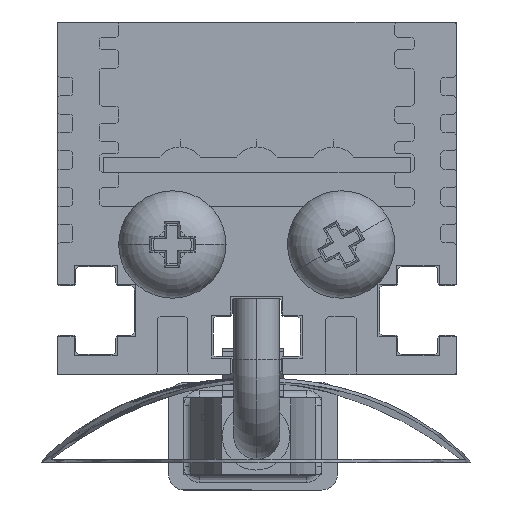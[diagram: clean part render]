
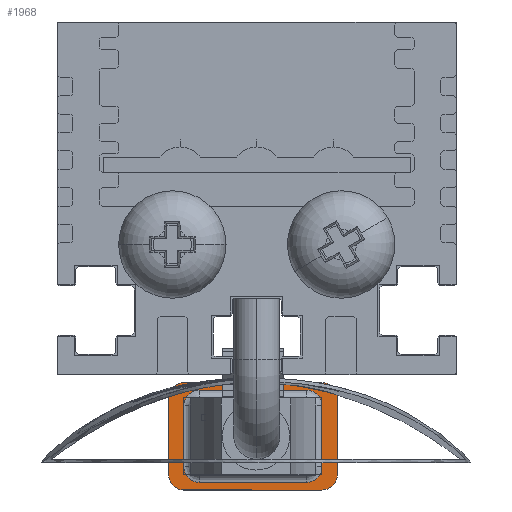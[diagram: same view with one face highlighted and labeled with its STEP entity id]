
A CAD part, left-side view. The second image highlights one B-rep face of the part: STEP entity #1968.
In plain terms, the highlighted planar face has unit normal (-1, 0, 0).
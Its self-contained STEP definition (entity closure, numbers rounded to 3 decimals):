
#1968=ADVANCED_FACE('NONE',(#4087,#4088),#4089,.F.);
#4087=FACE_OUTER_BOUND('',#6672,.T.);
#4088=FACE_BOUND('',#6673,.T.);
#4089=PLANE('',#6674);
#6672=EDGE_LOOP('',(#12297,#12298,#12299,#12300,#12301,#12302,#12303,#12304,#12305,#12306,#12307,#12308));
#6673=EDGE_LOOP('',(#12309,#12310,#12311,#12312,#12313,#12314,#12315,#12316));
#6674=AXIS2_PLACEMENT_3D('',#12317,#12318,#12319);
#12297=ORIENTED_EDGE('',*,*,#17567,.T.);
#12298=ORIENTED_EDGE('',*,*,#17369,.T.);
#12299=ORIENTED_EDGE('',*,*,#17575,.F.);
#12300=ORIENTED_EDGE('',*,*,#17364,.T.);
#12301=ORIENTED_EDGE('',*,*,#17588,.F.);
#12302=ORIENTED_EDGE('',*,*,#17411,.T.);
#12303=ORIENTED_EDGE('',*,*,#17586,.F.);
#12304=ORIENTED_EDGE('',*,*,#17420,.F.);
#12305=ORIENTED_EDGE('',*,*,#17570,.F.);
#12306=ORIENTED_EDGE('',*,*,#17361,.T.);
#12307=ORIENTED_EDGE('',*,*,#17578,.T.);
#12308=ORIENTED_EDGE('',*,*,#17356,.T.);
#12309=ORIENTED_EDGE('',*,*,#17385,.F.);
#12310=ORIENTED_EDGE('',*,*,#17375,.T.);
#12311=ORIENTED_EDGE('',*,*,#17388,.F.);
#12312=ORIENTED_EDGE('',*,*,#17396,.T.);
#12313=ORIENTED_EDGE('',*,*,#17404,.F.);
#12314=ORIENTED_EDGE('',*,*,#17407,.T.);
#12315=ORIENTED_EDGE('',*,*,#17401,.F.);
#12316=ORIENTED_EDGE('',*,*,#17393,.T.);
#12317=CARTESIAN_POINT('',(11.0,9.5,3.5));
#12318=DIRECTION('',(1.0,0.0,0.0));
#12319=DIRECTION('',(0.0,1.0,0.0));
#17356=EDGE_CURVE('NONE',#21413,#21411,#21414,.T.);
#17361=EDGE_CURVE('NONE',#21422,#21420,#21423,.T.);
#17364=EDGE_CURVE('NONE',#21426,#21427,#21428,.T.);
#17369=EDGE_CURVE('NONE',#21435,#21436,#21437,.T.);
#17375=EDGE_CURVE('NONE',#21447,#21445,#21448,.T.);
#17385=EDGE_CURVE('NONE',#21447,#21461,#21465,.T.);
#17388=EDGE_CURVE('NONE',#21468,#21445,#21470,.T.);
#17393=EDGE_CURVE('NONE',#21473,#21461,#21477,.T.);
#17396=EDGE_CURVE('NONE',#21468,#21480,#21482,.T.);
#17401=EDGE_CURVE('NONE',#21473,#21485,#21489,.T.);
#17404=EDGE_CURVE('NONE',#21492,#21480,#21494,.T.);
#17407=EDGE_CURVE('NONE',#21492,#21485,#21497,.T.);
#17411=EDGE_CURVE('NONE',#21503,#21500,#21504,.T.);
#17420=EDGE_CURVE('NONE',#21518,#21511,#21520,.T.);
#17567=EDGE_CURVE('NONE',#21411,#21435,#21757,.T.);
#17570=EDGE_CURVE('NONE',#21422,#21518,#21760,.T.);
#17575=EDGE_CURVE('NONE',#21426,#21436,#21765,.T.);
#17578=EDGE_CURVE('NONE',#21420,#21413,#21768,.T.);
#17586=EDGE_CURVE('NONE',#21511,#21500,#21776,.T.);
#17588=EDGE_CURVE('NONE',#21503,#21427,#21778,.T.);
#21411=VERTEX_POINT('NONE',#27561);
#21413=VERTEX_POINT('NONE',#27564);
#21414=CIRCLE('',#27565,1.0);
#21420=VERTEX_POINT('NONE',#27572);
#21422=VERTEX_POINT('NONE',#27575);
#21423=CIRCLE('',#27576,1.0);
#21426=VERTEX_POINT('NONE',#27580);
#21427=VERTEX_POINT('NONE',#27581);
#21428=CIRCLE('',#27582,1.0);
#21435=VERTEX_POINT('NONE',#27591);
#21436=VERTEX_POINT('NONE',#27592);
#21437=CIRCLE('',#27593,1.0);
#21445=VERTEX_POINT('NONE',#27603);
#21447=VERTEX_POINT('NONE',#27605);
#21448=LINE('',#27606,#27607);
#21461=VERTEX_POINT('NONE',#27623);
#21465=CIRCLE('',#27627,1.0);
#21468=VERTEX_POINT('NONE',#27630);
#21470=CIRCLE('',#27632,1.0);
#21473=VERTEX_POINT('NONE',#27635);
#21477=LINE('',#27640,#27641);
#21480=VERTEX_POINT('NONE',#27644);
#21482=LINE('',#27646,#27647);
#21485=VERTEX_POINT('NONE',#27651);
#21489=CIRCLE('',#27655,1.0);
#21492=VERTEX_POINT('NONE',#27658);
#21494=CIRCLE('',#27660,1.0);
#21497=LINE('',#27663,#27664);
#21500=VERTEX_POINT('NONE',#27668);
#21503=VERTEX_POINT('NONE',#27672);
#21504=LINE('',#27673,#27674);
#21511=VERTEX_POINT('NONE',#27684);
#21518=VERTEX_POINT('NONE',#27694);
#21520=LINE('',#27697,#27698);
#21757=LINE('',#28056,#28057);
#21760=LINE('',#28061,#28062);
#21765=LINE('',#28069,#28070);
#21768=LINE('',#28074,#28075);
#21776=LINE('',#28086,#28087);
#21778=LINE('',#28089,#28090);
#27561=CARTESIAN_POINT('',(11.0,8.5,-3.5));
#27564=CARTESIAN_POINT('',(11.0,9.5,-2.5));
#27565=AXIS2_PLACEMENT_3D('',#36077,#36078,#36079);
#27572=CARTESIAN_POINT('',(11.0,9.5,2.5));
#27575=CARTESIAN_POINT('',(11.0,8.5,3.5));
#27576=AXIS2_PLACEMENT_3D('',#36085,#36086,#36087);
#27580=CARTESIAN_POINT('',(11.0,-1.5,2.5));
#27581=CARTESIAN_POINT('',(11.0,-0.5,3.5));
#27582=AXIS2_PLACEMENT_3D('',#36089,#36090,#36091);
#27591=CARTESIAN_POINT('',(11.0,-0.5,-3.5));
#27592=CARTESIAN_POINT('',(11.0,-1.5,-2.5));
#27593=AXIS2_PLACEMENT_3D('',#36097,#36098,#36099);
#27603=CARTESIAN_POINT('',(11.0,0.5,3.0));
#27605=CARTESIAN_POINT('',(11.0,7.5,3.0));
#27606=CARTESIAN_POINT('',(11.0,9.5,3.0));
#27607=VECTOR('',#36108,1000.0);
#27623=CARTESIAN_POINT('',(11.0,8.5,2.0));
#27627=AXIS2_PLACEMENT_3D('',#36127,#36128,#36129);
#27630=CARTESIAN_POINT('',(11.0,-0.5,2.0));
#27632=AXIS2_PLACEMENT_3D('',#36133,#36134,#36135);
#27635=CARTESIAN_POINT('',(11.0,8.5,-2.0));
#27640=CARTESIAN_POINT('',(11.0,8.5,2.5));
#27641=VECTOR('',#36143,1000.0);
#27644=CARTESIAN_POINT('',(11.0,-0.5,-2.0));
#27646=CARTESIAN_POINT('',(11.0,-0.5,-2.5));
#27647=VECTOR('',#36147,1000.0);
#27651=CARTESIAN_POINT('',(11.0,7.5,-3.0));
#27655=AXIS2_PLACEMENT_3D('',#36155,#36156,#36157);
#27658=CARTESIAN_POINT('',(11.0,0.5,-3.0));
#27660=AXIS2_PLACEMENT_3D('',#36161,#36162,#36163);
#27663=CARTESIAN_POINT('',(11.0,8.0,-3.0));
#27664=VECTOR('',#36167,1000.0);
#27668=CARTESIAN_POINT('',(11.0,3.0,4.0));
#27672=CARTESIAN_POINT('',(11.0,3.0,3.5));
#27673=CARTESIAN_POINT('',(11.0,3.0,4.0));
#27674=VECTOR('',#36170,1000.0);
#27684=CARTESIAN_POINT('',(11.0,5.0,4.0));
#27694=CARTESIAN_POINT('',(11.0,5.0,3.5));
#27697=CARTESIAN_POINT('',(11.0,5.0,4.0));
#27698=VECTOR('',#36178,1000.0);
#28056=CARTESIAN_POINT('',(11.0,9.5,-3.5));
#28057=VECTOR('',#36300,1000.0);
#28061=CARTESIAN_POINT('',(11.0,9.5,3.5));
#28062=VECTOR('',#36302,1000.0);
#28069=CARTESIAN_POINT('',(11.0,-1.5,3.5));
#28070=VECTOR('',#36305,1000.0);
#28074=CARTESIAN_POINT('',(11.0,9.5,3.5));
#28075=VECTOR('',#36307,1000.0);
#28086=CARTESIAN_POINT('',(11.0,5.0,4.0));
#28087=VECTOR('',#36311,1000.0);
#28089=CARTESIAN_POINT('',(11.0,9.5,3.5));
#28090=VECTOR('',#36312,1000.0);
#36077=CARTESIAN_POINT('',(11.0,8.5,-2.5));
#36078=DIRECTION('',(-1.0,0.0,0.0));
#36079=DIRECTION('',(0.0,0.0,-1.0));
#36085=CARTESIAN_POINT('',(11.0,8.5,2.5));
#36086=DIRECTION('',(-1.0,0.0,0.0));
#36087=DIRECTION('',(0.0,0.0,-1.0));
#36089=CARTESIAN_POINT('',(11.0,-0.5,2.5));
#36090=DIRECTION('',(-1.0,0.0,0.0));
#36091=DIRECTION('',(0.0,0.0,-1.0));
#36097=CARTESIAN_POINT('',(11.0,-0.5,-2.5));
#36098=DIRECTION('',(-1.0,0.0,0.0));
#36099=DIRECTION('',(0.0,0.0,-1.0));
#36108=DIRECTION('',(0.0,-1.0,0.0));
#36127=CARTESIAN_POINT('',(11.0,7.5,2.0));
#36128=DIRECTION('',(-1.0,0.0,0.0));
#36129=DIRECTION('',(0.0,0.0,-1.0));
#36133=CARTESIAN_POINT('',(11.0,0.5,2.0));
#36134=DIRECTION('',(-1.0,0.0,0.0));
#36135=DIRECTION('',(0.0,0.0,-1.0));
#36143=DIRECTION('',(0.0,0.0,1.0));
#36147=DIRECTION('',(0.0,0.0,-1.0));
#36155=CARTESIAN_POINT('',(11.0,7.5,-2.0));
#36156=DIRECTION('',(-1.0,0.0,0.0));
#36157=DIRECTION('',(0.0,0.0,-1.0));
#36161=CARTESIAN_POINT('',(11.0,0.5,-2.0));
#36162=DIRECTION('',(-1.0,0.0,0.0));
#36163=DIRECTION('',(0.0,0.0,-1.0));
#36167=DIRECTION('',(0.0,1.0,0.0));
#36170=DIRECTION('',(0.0,0.0,1.0));
#36178=DIRECTION('',(0.0,0.0,1.0));
#36300=DIRECTION('',(0.0,-1.0,0.0));
#36302=DIRECTION('',(0.0,-1.0,0.0));
#36305=DIRECTION('',(0.0,0.0,-1.0));
#36307=DIRECTION('',(0.0,0.0,-1.0));
#36311=DIRECTION('',(0.0,-1.0,0.0));
#36312=DIRECTION('',(0.0,-1.0,0.0));
